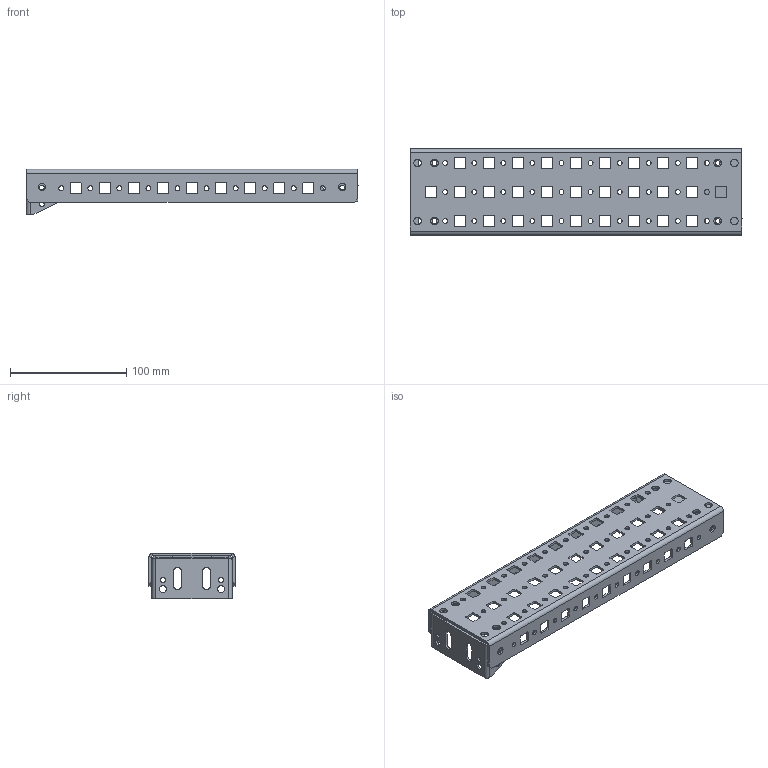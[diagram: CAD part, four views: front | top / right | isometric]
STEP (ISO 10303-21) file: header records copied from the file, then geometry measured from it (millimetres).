
FILE_DESCRIPTION(('STEP AP203'), '1');
FILE_NAME('MG 40.09 L Ðåéêà ìîíòàæíàÿ v2', '2021-05-20T06:52:11', ('UNSPECIFIED'), ('UNSPECIFIED'), 'ASCON STEP Converter 1.3', 'ASCON Math Kernel', '');
FILE_SCHEMA(('CONFIG_CONTROL_DESIGN'));
Length unit declared in the file: millimetre
Products named in the file (3): MG 40.09 L 01.001 Ðåéêà ìîíòàæíàÿ v2; MG 09 L 01.002 Êðîíøòåéí ðåéêè ìîíòàæíîé v2
Assembly tree (3 placements, depth 2):
  (unnamed)
    MG 40.09 L 01.001 Ðåéêà ìîíòàæíàÿ v2
    MG 09 L 01.002 Êðîíøòåéí ðåéêè ìîíòàæíîé v2  x2
Bounding box: 285.55 x 74.15 x 39 mm (x, y, z)
Volume: 76318.8 mm3; surface area: 85974.7 mm2
Topology: 3 solids, 3 shells, 600 faces, 1702 edges, 1108 vertices
Faces by surface type: cylinder 314, plane 278, bspline 8
Full cylindrical faces by diameter (mm): 4.2 x74, 6 x4, 6.5 x12
Entity records: 23056 total; most frequent: CARTESIAN_POINT 3940, DIRECTION 3074, ORIENTED_EDGE 2920, EDGE_CURVE 1460, AXIS2_PLACEMENT_3D 1092, VERTEX_POINT 1008, LINE 890, VECTOR 890
